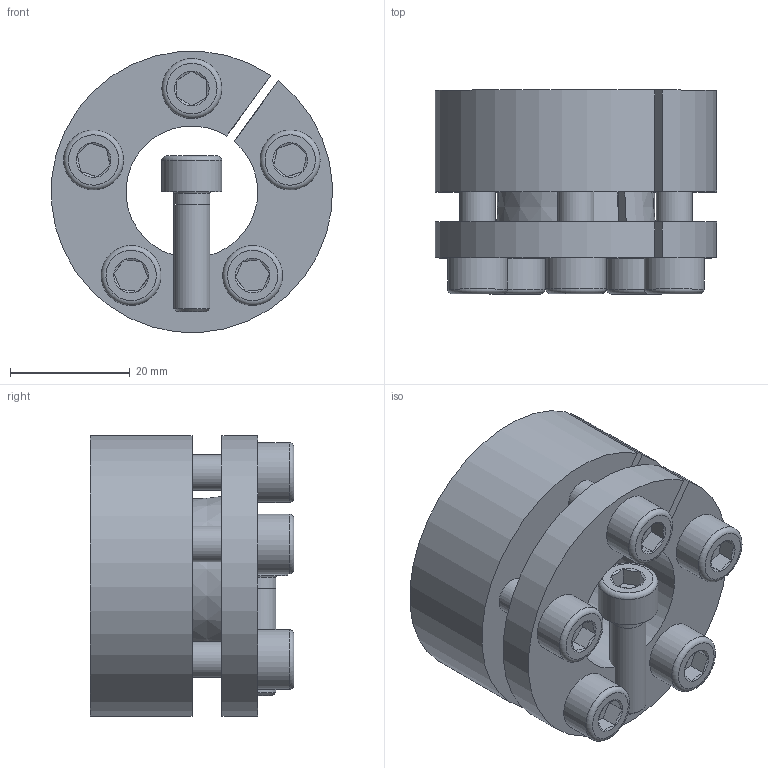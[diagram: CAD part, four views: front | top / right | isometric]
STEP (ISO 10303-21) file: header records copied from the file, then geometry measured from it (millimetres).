
FILE_DESCRIPTION( ( 'Unknown' ), '1' );
FILE_NAME( 'C:/Dokumente und Einstellungen/Sven/Desktop/homepage/cad - homepage/KBS13/KBS 13 - 22 x 47.stp', 'Unknown', ( 'Unknown' ), ( 'Unknown' ), 'XStep 1.0', 'Unknown', ' ' );
FILE_SCHEMA( ( 'automotive_design' ) );
Length unit declared in the file: millimetre
Products named in the file (3): Assem1; KBS 13 - 22 x 47; ISO EN DIN 4762 M6x20
Bounding box: 46.9 x 34 x 46.88 mm (x, y, z)
Volume: 61982.4 mm3; surface area: 30465.7 mm2
Topology: 8 solids, 8 shells, 194 faces, 398 edges, 244 vertices
Faces by surface type: plane 86, cylinder 50, cone 46, torus 12
Full cylindrical faces by diameter (mm): 5 x6, 6 x32, 10 x6
Entity records: 1552 total; most frequent: CARTESIAN_POINT 260, DIRECTION 230, ORIENTED_EDGE 170, AXIS2_PLACEMENT_3D 101, EDGE_LOOP 88, EDGE_CURVE 85, FACE_OUTER_BOUND 63, VERTEX_POINT 63
